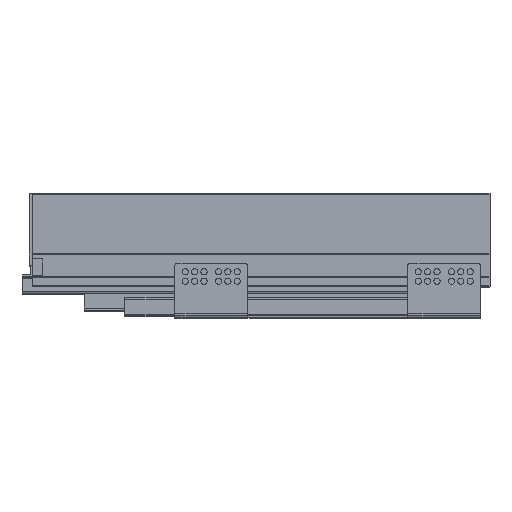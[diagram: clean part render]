
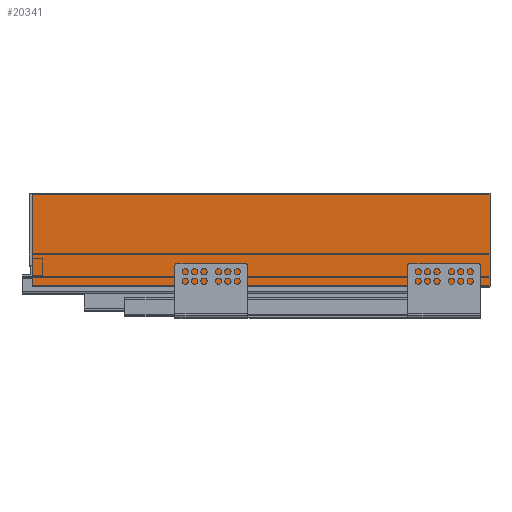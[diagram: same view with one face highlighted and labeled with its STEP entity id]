
A CAD part, top view. The second image highlights one B-rep face of the part: STEP entity #20341.
In plain terms, the highlighted planar face has unit normal (0, 0, 1).
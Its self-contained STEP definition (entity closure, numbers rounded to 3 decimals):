
#499=PLANE('',#21558);
#1352=FACE_OUTER_BOUND('',#2469,.T.);
#2469=EDGE_LOOP('',(#14259,#14260,#14261,#14262));
#3979=LINE('',#29291,#6308);
#3981=LINE('',#29295,#6310);
#3982=LINE('',#29297,#6311);
#3983=LINE('',#29298,#6312);
#6308=VECTOR('',#23625,10.);
#6310=VECTOR('',#23629,10.);
#6311=VECTOR('',#23630,10.);
#6312=VECTOR('',#23631,10.);
#9106=VERTEX_POINT('',#29288);
#9107=VERTEX_POINT('',#29290);
#9108=VERTEX_POINT('',#29294);
#9109=VERTEX_POINT('',#29296);
#11147=EDGE_CURVE('',#9106,#9107,#3979,.T.);
#11149=EDGE_CURVE('',#9106,#9108,#3981,.T.);
#11150=EDGE_CURVE('',#9108,#9109,#3982,.T.);
#11151=EDGE_CURVE('',#9109,#9107,#3983,.T.);
#14259=ORIENTED_EDGE('',*,*,#11149,.T.);
#14260=ORIENTED_EDGE('',*,*,#11150,.T.);
#14261=ORIENTED_EDGE('',*,*,#11151,.T.);
#14262=ORIENTED_EDGE('',*,*,#11147,.F.);
#20341=ADVANCED_FACE('',(#1352),#499,.F.);
#21558=AXIS2_PLACEMENT_3D('',#29293,#23627,#23628);
#23625=DIRECTION('',(1.,0.,0.));
#23627=DIRECTION('center_axis',(0.,0.,-1.));
#23628=DIRECTION('ref_axis',(0.,1.,0.));
#23629=DIRECTION('',(0.,-1.,0.));
#23630=DIRECTION('',(1.,0.,0.));
#23631=DIRECTION('',(0.,1.,0.));
#29288=CARTESIAN_POINT('',(0.,90.,535.));
#29290=CARTESIAN_POINT('',(440.,90.,535.));
#29291=CARTESIAN_POINT('',(0.,90.,535.));
#29293=CARTESIAN_POINT('Origin',(0.,0.,535.));
#29294=CARTESIAN_POINT('',(0.,0.,535.));
#29295=CARTESIAN_POINT('',(0.,90.,535.));
#29296=CARTESIAN_POINT('',(440.,0.,535.));
#29297=CARTESIAN_POINT('',(0.,0.,535.));
#29298=CARTESIAN_POINT('',(440.,90.,535.));
